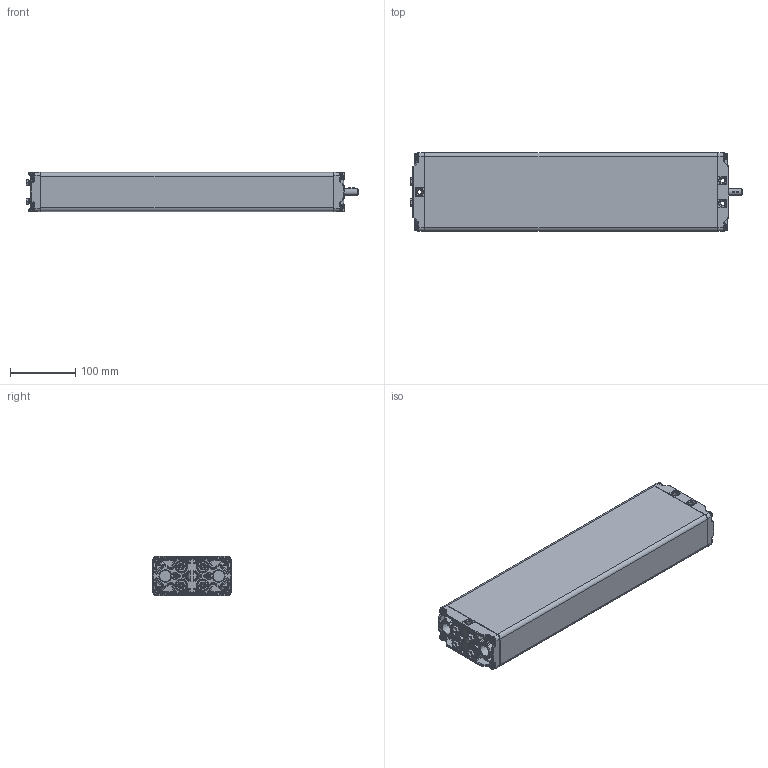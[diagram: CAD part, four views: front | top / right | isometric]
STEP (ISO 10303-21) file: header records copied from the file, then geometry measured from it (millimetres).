
FILE_DESCRIPTION(/* description */ ('Unknown'),/* implementation_level */ '2;1');
FILE_NAME(/* name */ '102.20054 Pumpe PB 4640 W',/* time_stamp */ '2016-09-02T14:06:11+02:00',/* author */ ('Unknown'),/* organization */ ('Unknown'),/* preprocessor_version */ 'ST-DEVELOPER v16.7',/* originating_system */ 'DEX',/* authorisation */ $);
FILE_SCHEMA (('AUTOMOTIVE_DESIGN {1 0 10303 214 3 1 1}'));
Products named in the file (14): 102.20054; 115.00042; 125.00046; 142.00021; 125.00021; 115.00003; 142.00013; 125.00143; 115.00140; 126.00006; 122.00040; 119.00043; 126.00005; 142.00057
Assembly tree (23 placements, depth 3):
  102.20054
    115.00042  x4
      125.00046
      142.00021
      125.00021
      115.00003
    142.00013  x8
    125.00143
    115.00140
      126.00006
      122.00040
    119.00043
    126.00005
    142.00057
Bounding box: 509.47 x 120 x 60.3 mm (x, y, z)
Volume: 653414.8 mm3; surface area: 432194 mm2
Topology: 26 solids, 26 shells, 2494 faces, 5921 edges, 3404 vertices
Faces by surface type: bspline 704, plane 659, cylinder 554, cone 347, torus 172, sphere 58
Full cylindrical faces by diameter (mm): 3.5 x4, 4.1 x4, 4.2 x4, 5 x8, 6.917 x8, 8 x9, 9.8 x8, 10 x3, 10.4 x1, 14 x1, 17.3 x4, 18 x1, 19 x1, 22.4 x4, 25.9 x8
Entity records: 97534 total; most frequent: CARTESIAN_POINT 54063, ORIENTED_EDGE 8234, DIRECTION 6551, EDGE_CURVE 4117, AXIS2_PLACEMENT_3D 2633, VERTEX_POINT 2519, FACE_BOUND 1980, EDGE_LOOP 1979
